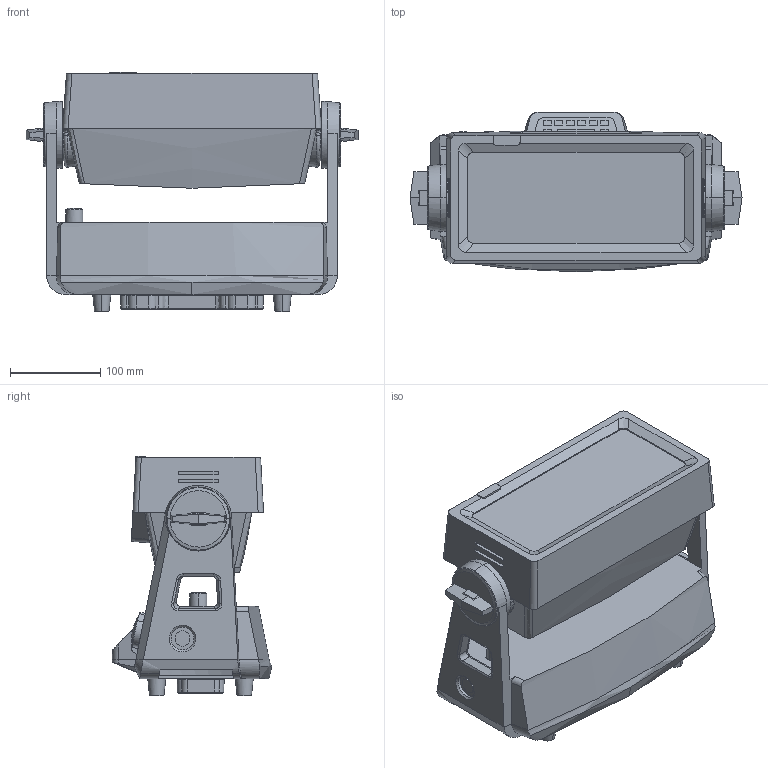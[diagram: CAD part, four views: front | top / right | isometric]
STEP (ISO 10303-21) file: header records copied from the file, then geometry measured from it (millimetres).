
FILE_DESCRIPTION(/* description */ (''),/* implementation_level */ '2;1');
FILE_NAME(/* name */ '250925_ROXX_NEO lite_3D',/* time_stamp */ '2025-09-25T14:46:53+02:00',/* author */ (''),/* organization */ (''),/* preprocessor_version */ 'ST-DEVELOPER v16.5',/* originating_system */ 'Rhino 7.38',/* authorisation */ '');
FILE_SCHEMA (('CONFIG_CONTROL_DESIGN'));
Length unit declared in the file: millimetre
Products named in the file (1): Document
Bounding box: 367.91 x 176.74 x 265.4 mm (x, y, z)
Volume: 4190091.1 mm3; surface area: 414180.8 mm2
Topology: 1 solids, 2 shells, 768 faces, 1977 edges, 1257 vertices
Faces by surface type: plane 381, bspline 194, cylinder 193
Entity records: 30064 total; most frequent: CARTESIAN_POINT 17315, ORIENTED_EDGE 3964, EDGE_CURVE 1982, B_SPLINE_CURVE_WITH_KNOTS 1278, VERTEX_POINT 1257, EDGE_LOOP 817, ADVANCED_FACE 768, FACE_OUTER_BOUND 768
